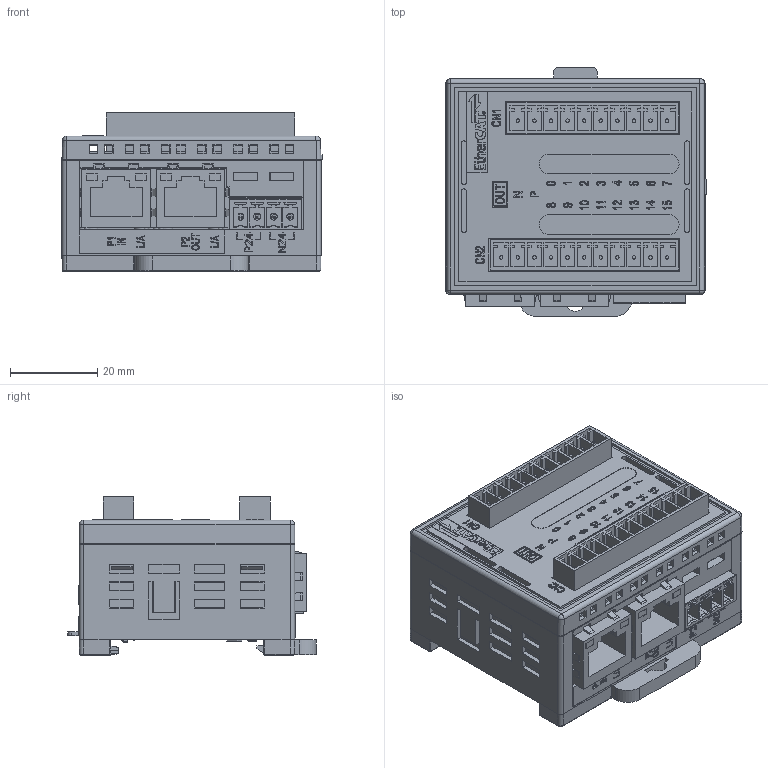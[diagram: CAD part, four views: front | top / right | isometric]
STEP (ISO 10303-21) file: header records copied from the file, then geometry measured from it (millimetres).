
FILE_DESCRIPTION((''),'2;1');
FILE_NAME('ECCBP0F','2026-05-11T14:51:55',('gijyu181'),(''),'CREO PARAMETRIC BY PTC INC, 2018050','CREO PARAMETRIC BY PTC INC, 2018050','');
FILE_SCHEMA(('CONFIG_CONTROL_DESIGN','SHAPE_APPEARANCE_LAYERS_GROUPS'));
Products named in the file (1): ECCBP0F
Bounding box: 59.75 x 57.15 x 36.3 mm (x, y, z)
Volume: 68583.3 mm3; surface area: 40792.7 mm2
Topology: 1 solids, 17 shells, 6024 faces, 16646 edges, 10991 vertices
Faces by surface type: plane 4387, extrusion 774, cylinder 727, sphere 44, cone 42, torus 26, bspline 24
Entity records: 242681 total; most frequent: CARTESIAN_POINT 43115, ORIENTED_EDGE 33256, DIRECTION 27471, EDGE_CURVE 16632, VECTOR 14053, LINE 13279, VERTEX_POINT 10991, PRESENTATION_STYLE_ASSIGNMENT 9580
